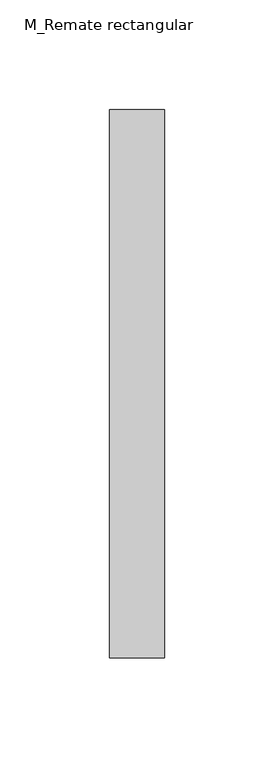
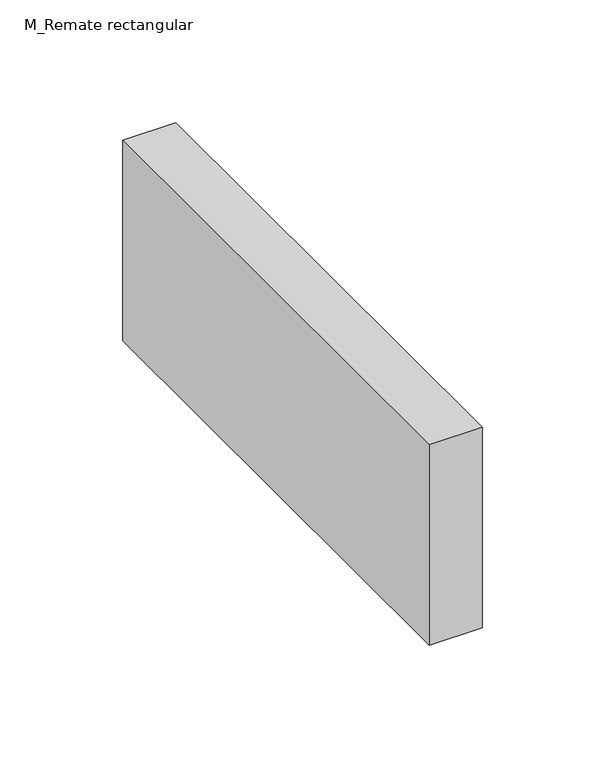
"""IFC4 building model written with IfcOpenShell, lengths in millimetres: duct fitting geometry, M_Remate rectangular : Estándar."""

from ifc_helpers import new_model, si_unit, frame, origin, place, context, project, spatial, polyline, outline, extrude, source, transform, mapped, element, save


def m_remate_rectangular_b19a0a08(model_context):
    return source(origin(), model_context, "Body", "SweptSolid", [
        extrude(outline(polyline([(0.0, -125.0), (0.0, 125.0), (25.0, 125.0), (25.0, -125.0), (0.0, -125.0)])), frame((0.0, 0.0, -50.0), z_axis=(0.0, 0.0, 1.0), x_axis=(1.0, 0.0, 0.0)), (0.0, 0.0, 1.0), 100.0),
    ])


if __name__ == "__main__":
    model = new_model("IFC4")
    model_context = context("Model", 3, world=origin())
    ifc_project = project(units=[si_unit("LENGTHUNIT", "METRE", prefix="MILLI")], contexts=[model_context])
    site = spatial("IfcSite", under=ifc_project)
    building = spatial("IfcBuilding", under=site)
    placement = place(None, origin())
    m_remate_rectangular_shape = m_remate_rectangular_b19a0a08(model_context)
    element("IfcDuctFitting", 1, ObjectType="M_Remate rectangular : Estándar", at=placement, inside=building, context=model_context, shape_type="MappedRepresentation", body=[
        mapped(m_remate_rectangular_shape, transform((0.0, 0.0, 0.0), x_axis=(1.0, 0.0, 0.0), y_axis=(0.0, 1.0, 0.0), z_axis=(0.0, 0.0, 1.0))),
    ])
    save(model, "model.ifc")
